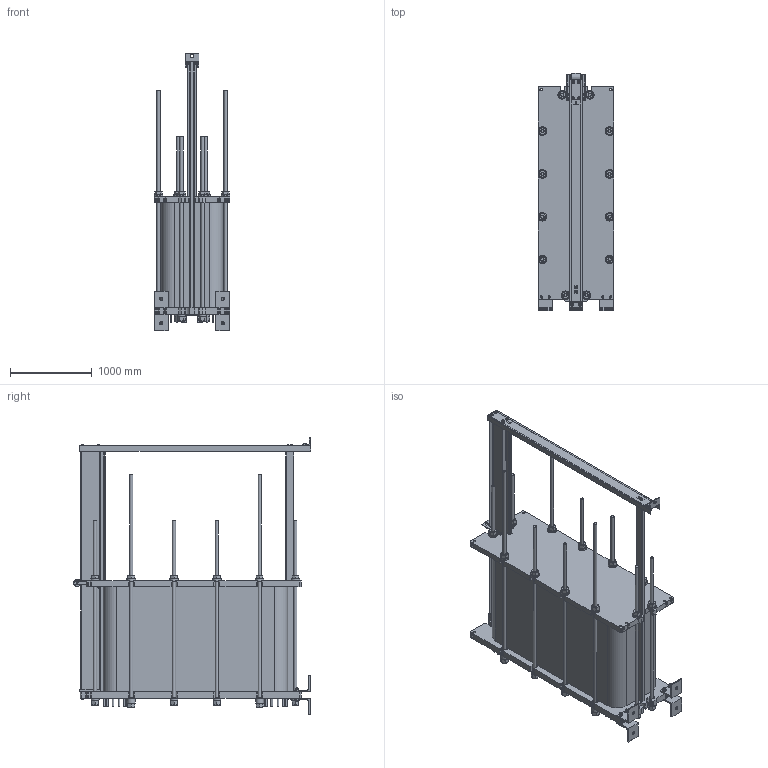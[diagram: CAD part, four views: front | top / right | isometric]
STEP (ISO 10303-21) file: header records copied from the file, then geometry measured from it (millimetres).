
FILE_DESCRIPTION((''),'2;1');
FILE_NAME('C:\temp\MX25_FG_LC3000_7_02_Rev0.stp','2009-09-27T06:28:06',('CNSHFLU'),(''),'Autodesk Inventor 2008','Autodesk Inventor 2008','');
FILE_SCHEMA(('AUTOMOTIVE_DESIGN { 1 2 10303 214 0 1 1 1 }'));
Length unit declared in the file: millimetre
Products named in the file (1): MX25
Bounding box: 925 x 2893.33 x 3385.5 mm (x, y, z)
Volume: 2329155891.1 mm3; surface area: 31242960.6 mm2
Topology: 1 solids, 16 shells, 2811 faces, 6657 edges, 4150 vertices
Faces by surface type: plane 1376, cone 728, cylinder 620, bspline 87
Full cylindrical faces by diameter (mm): 9.45 x4, 12 x12, 13 x10, 14 x2, 18 x4, 20 x63, 21 x13, 22 x5, 24 x20, 25 x8, 26 x4, 30 x2, 34.295 x4, 37 x10, 39 x24, 40 x5, 44 x8, 53 x24, 63 x12, 90 x8, 96 x4, 105 x12, 229 x4, 230 x4
Entity records: 77880 total; most frequent: CARTESIAN_POINT 16725, DIRECTION 12620, ORIENTED_EDGE 12428, EDGE_CURVE 6214, AXIS2_PLACEMENT_3D 4927, VERTEX_POINT 4098, EDGE_LOOP 3552, FACE_OUTER_BOUND 2811
